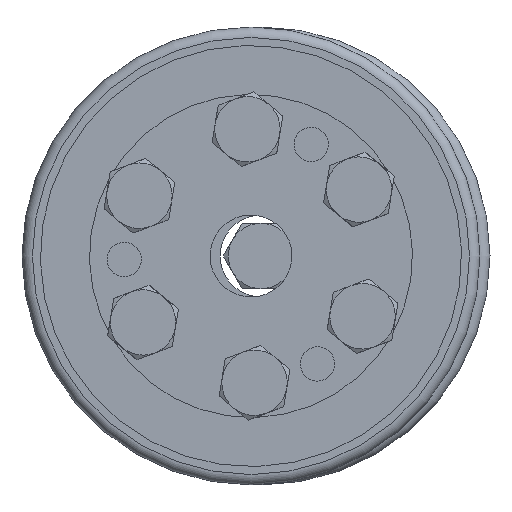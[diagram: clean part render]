
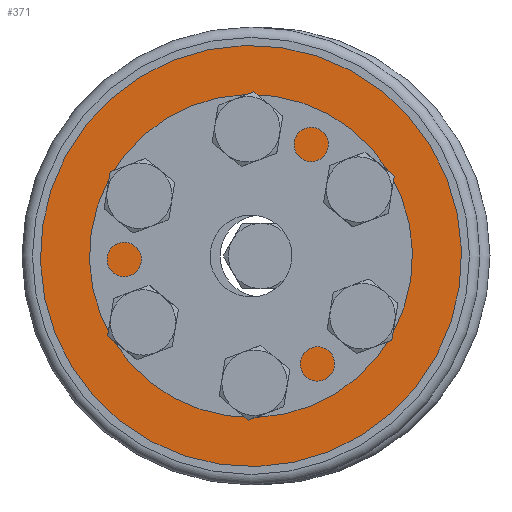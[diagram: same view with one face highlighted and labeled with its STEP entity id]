
A CAD part, left-side view. The second image highlights one B-rep face of the part: STEP entity #371.
In plain terms, the highlighted planar face has unit normal (-1, 0, 0).
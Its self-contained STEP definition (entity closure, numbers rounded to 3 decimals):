
#371 = ADVANCED_FACE( 'NONE', ( #600, #601, #602, #603, #604, #605, #606, #607 ), #608, .F. );
#600 = FACE_OUTER_BOUND( '', #932, .T. );
#601 = FACE_BOUND( '', #933, .T. );
#602 = FACE_BOUND( '', #934, .T. );
#603 = FACE_BOUND( '', #935, .T. );
#604 = FACE_BOUND( '', #936, .T. );
#605 = FACE_BOUND( '', #937, .T. );
#606 = FACE_BOUND( '', #938, .T. );
#607 = FACE_BOUND( '', #939, .T. );
#608 = PLANE( '', #940 );
#932 = EDGE_LOOP( '', ( #1295 ) );
#933 = EDGE_LOOP( '', ( #1296 ) );
#934 = EDGE_LOOP( '', ( #1297 ) );
#935 = EDGE_LOOP( '', ( #1298 ) );
#936 = EDGE_LOOP( '', ( #1299 ) );
#937 = EDGE_LOOP( '', ( #1300 ) );
#938 = EDGE_LOOP( '', ( #1301 ) );
#939 = EDGE_LOOP( '', ( #1302 ) );
#940 = AXIS2_PLACEMENT_3D( '', #1303, #1304, #1305 );
#1295 = ORIENTED_EDGE( '', *, *, #1847, .T. );
#1296 = ORIENTED_EDGE( '', *, *, #1841, .F. );
#1297 = ORIENTED_EDGE( '', *, *, #1848, .F. );
#1298 = ORIENTED_EDGE( '', *, *, #1849, .F. );
#1299 = ORIENTED_EDGE( '', *, *, #1850, .F. );
#1300 = ORIENTED_EDGE( '', *, *, #1851, .F. );
#1301 = ORIENTED_EDGE( '', *, *, #1852, .F. );
#1302 = ORIENTED_EDGE( '', *, *, #1839, .F. );
#1303 = CARTESIAN_POINT( '', ( 0., 12.2, 0. ) );
#1304 = DIRECTION( '', ( 1., 0., 0. ) );
#1305 = DIRECTION( '', ( 0., 1., 0. ) );
#1839 = EDGE_CURVE( 'NONE', #1977, #1977, #1978, .T. );
#1841 = EDGE_CURVE( 'NONE', #1981, #1981, #1982, .T. );
#1847 = EDGE_CURVE( 'NONE', #1993, #1993, #1994, .T. );
#1848 = EDGE_CURVE( 'NONE', #1995, #1995, #1996, .T. );
#1849 = EDGE_CURVE( 'NONE', #1997, #1997, #1998, .T. );
#1850 = EDGE_CURVE( 'NONE', #1999, #1999, #2000, .T. );
#1851 = EDGE_CURVE( 'NONE', #2001, #2001, #2002, .T. );
#1852 = EDGE_CURVE( 'NONE', #2003, #2003, #2004, .T. );
#1977 = VERTEX_POINT( '', #2175 );
#1978 = CIRCLE( '', #2176, 2.1 );
#1981 = VERTEX_POINT( '', #2179 );
#1982 = CIRCLE( '', #2180, 2.1 );
#1993 = VERTEX_POINT( '', #2191 );
#1994 = CIRCLE( '', #2192, 25.75 );
#1995 = VERTEX_POINT( '', #2193 );
#1996 = CIRCLE( '', #2194, 2.1 );
#1997 = VERTEX_POINT( '', #2195 );
#1998 = CIRCLE( '', #2196, 2.1 );
#1999 = VERTEX_POINT( '', #2197 );
#2000 = CIRCLE( '', #2198, 2.1 );
#2001 = VERTEX_POINT( '', #2199 );
#2002 = CIRCLE( '', #2200, 12.2 );
#2003 = VERTEX_POINT( '', #2201 );
#2004 = CIRCLE( '', #2202, 2.1 );
#2175 = CARTESIAN_POINT( '', ( 0., 7.75, 15.523 ) );
#2176 = AXIS2_PLACEMENT_3D( '', #2373, #2374, #2375 );
#2179 = CARTESIAN_POINT( '', ( 0., -7.75, 15.523 ) );
#2180 = AXIS2_PLACEMENT_3D( '', #2379, #2380, #2381 );
#2191 = CARTESIAN_POINT( '', ( 0., 0., 25.75 ) );
#2192 = AXIS2_PLACEMENT_3D( '', #2397, #2398, #2399 );
#2193 = CARTESIAN_POINT( '', ( 0., -7.75, -11.323 ) );
#2194 = AXIS2_PLACEMENT_3D( '', #2400, #2401, #2402 );
#2195 = CARTESIAN_POINT( '', ( 0., 7.75, -11.323 ) );
#2196 = AXIS2_PLACEMENT_3D( '', #2403, #2404, #2405 );
#2197 = CARTESIAN_POINT( '', ( 0., 15.5, 2.1 ) );
#2198 = AXIS2_PLACEMENT_3D( '', #2406, #2407, #2408 );
#2199 = CARTESIAN_POINT( '', ( 0., 0., 12.2 ) );
#2200 = AXIS2_PLACEMENT_3D( '', #2409, #2410, #2411 );
#2201 = CARTESIAN_POINT( '', ( 0., -15.5, 2.1 ) );
#2202 = AXIS2_PLACEMENT_3D( '', #2412, #2413, #2414 );
#2373 = CARTESIAN_POINT( '', ( 0., 7.75, 13.423 ) );
#2374 = DIRECTION( '', ( -1., 0., 0. ) );
#2375 = DIRECTION( '', ( 0., 0., 1. ) );
#2379 = CARTESIAN_POINT( '', ( 0., -7.75, 13.423 ) );
#2380 = DIRECTION( '', ( -1., 0., 0. ) );
#2381 = DIRECTION( '', ( 0., 0., 1. ) );
#2397 = CARTESIAN_POINT( '', ( 0., 0., 0. ) );
#2398 = DIRECTION( '', ( -1., 0., 0. ) );
#2399 = DIRECTION( '', ( 0., 0., 1. ) );
#2400 = CARTESIAN_POINT( '', ( 0., -7.75, -13.423 ) );
#2401 = DIRECTION( '', ( -1., 0., 0. ) );
#2402 = DIRECTION( '', ( 0., 0., 1. ) );
#2403 = CARTESIAN_POINT( '', ( 0., 7.75, -13.423 ) );
#2404 = DIRECTION( '', ( -1., 0., 0. ) );
#2405 = DIRECTION( '', ( 0., 0., 1. ) );
#2406 = CARTESIAN_POINT( '', ( 0., 15.5, 0. ) );
#2407 = DIRECTION( '', ( -1., 0., 0. ) );
#2408 = DIRECTION( '', ( 0., 0., 1. ) );
#2409 = CARTESIAN_POINT( '', ( 0., 0., 0. ) );
#2410 = DIRECTION( '', ( -1., 0., 0. ) );
#2411 = DIRECTION( '', ( 0., 0., 1. ) );
#2412 = CARTESIAN_POINT( '', ( 0., -15.5, 0. ) );
#2413 = DIRECTION( '', ( -1., 0., 0. ) );
#2414 = DIRECTION( '', ( 0., 0., 1. ) );
